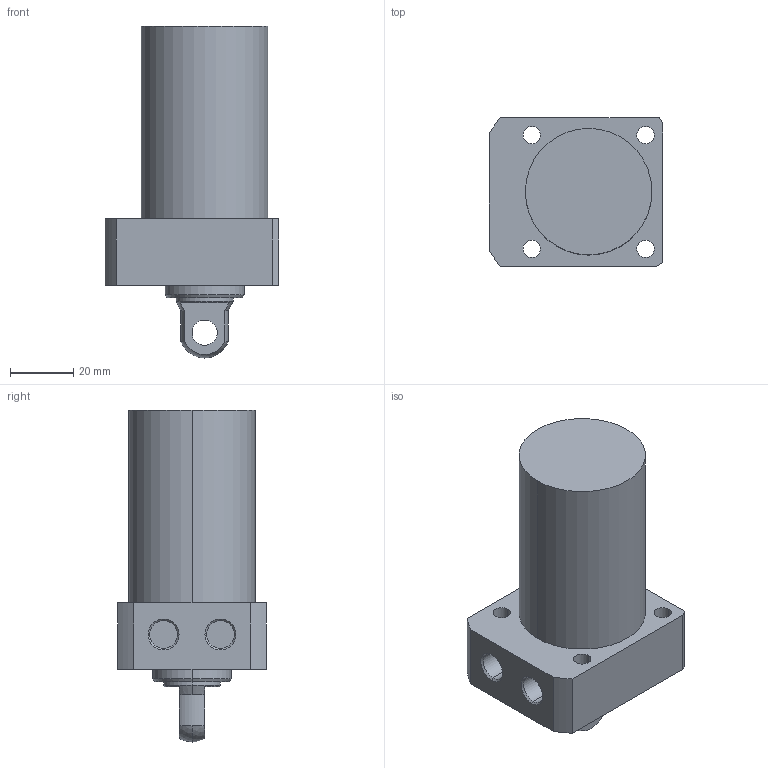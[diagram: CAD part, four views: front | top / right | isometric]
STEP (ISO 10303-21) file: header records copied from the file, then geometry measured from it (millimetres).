
FILE_DESCRIPTION (( 'STEP AP203' ), '1' );
FILE_NAME ('CLL-R040-CP-050.STEP', '2017-05-10T11:27:13', ( '' ), ( '' ), 'SwSTEP 2.0', 'SolidWorks 2015', '' );
FILE_SCHEMA (( 'CONFIG_CONTROL_DESIGN' ));
Length unit declared in the file: millimetre
Products named in the file (1): CLL-R040-CP-050
Bounding box: 55 x 47 x 105 mm (x, y, z)
Volume: 130344.8 mm3; surface area: 20162.7 mm2
Topology: 1 solids, 1 shells, 57 faces, 135 edges, 87 vertices
Faces by surface type: cylinder 29, plane 18, cone 8, sphere 2
Entity records: 1770 total; most frequent: DIRECTION 319, CARTESIAN_POINT 292, ORIENTED_EDGE 270, EDGE_CURVE 135, AXIS2_PLACEMENT_3D 130, VERTEX_POINT 87, EDGE_LOOP 74, CIRCLE 72
